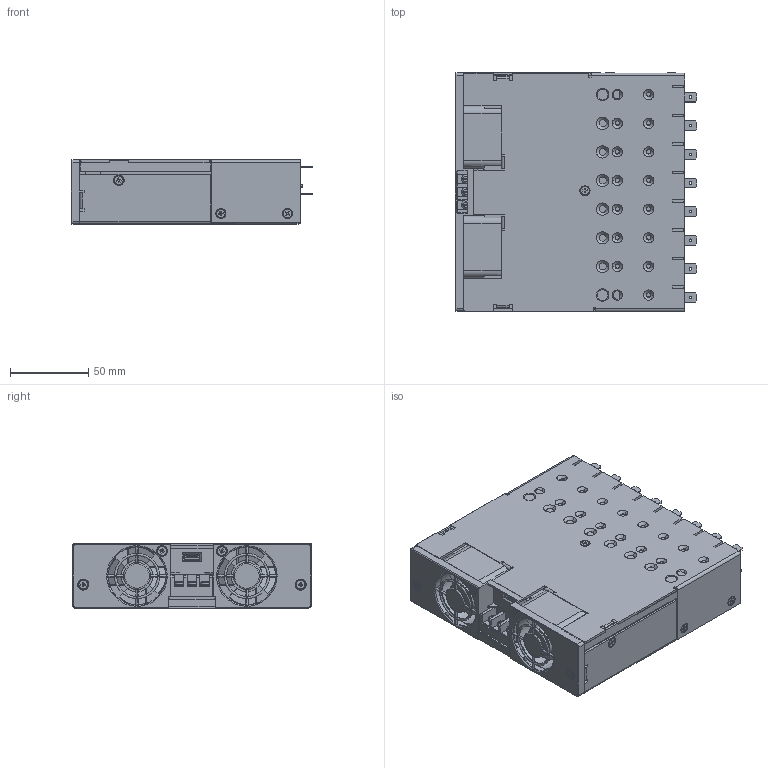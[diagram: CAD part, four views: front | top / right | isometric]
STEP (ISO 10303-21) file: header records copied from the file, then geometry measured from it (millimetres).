
FILE_DESCRIPTION (( 'STEP AP203' ), '1' );
FILE_NAME ('NEVO1200 Public Facing 3D Model.STEP', '2020-11-23T12:18:26', ( '' ), ( '' ), 'SwSTEP 2.0', 'SolidWorks 2020', '' );
FILE_SCHEMA (( 'CONFIG_CONTROL_DESIGN' ));
Products named in the file (1): NEVO1200 Public Facing 3D Model
Bounding box: 154.5 x 152.81 x 41 mm (x, y, z)
Surface area: 111227.8 mm2 (no closed solid volume)
Topology: 0 solids, 44 shells, 3032 faces, 8296 edges, 5373 vertices
Faces by surface type: plane 1790, cylinder 624, bspline 435, cone 165, torus 18
Entity records: 112665 total; most frequent: CARTESIAN_POINT 47672, ORIENTED_EDGE 16113, DIRECTION 9454, EDGE_CURVE 8278, VERTEX_POINT 5368, B_SPLINE_CURVE_WITH_KNOTS 3887, AXIS2_PLACEMENT_3D 3359, EDGE_LOOP 3245
